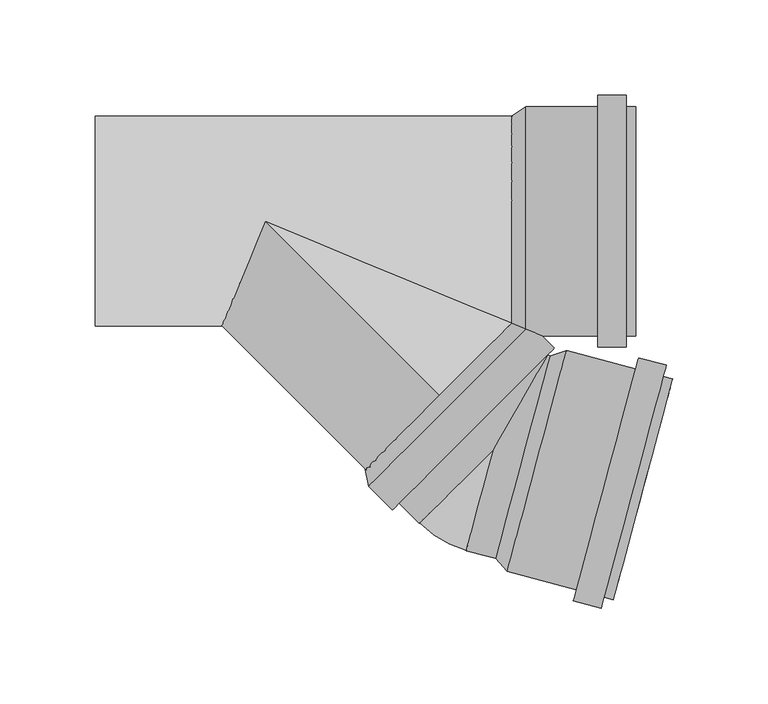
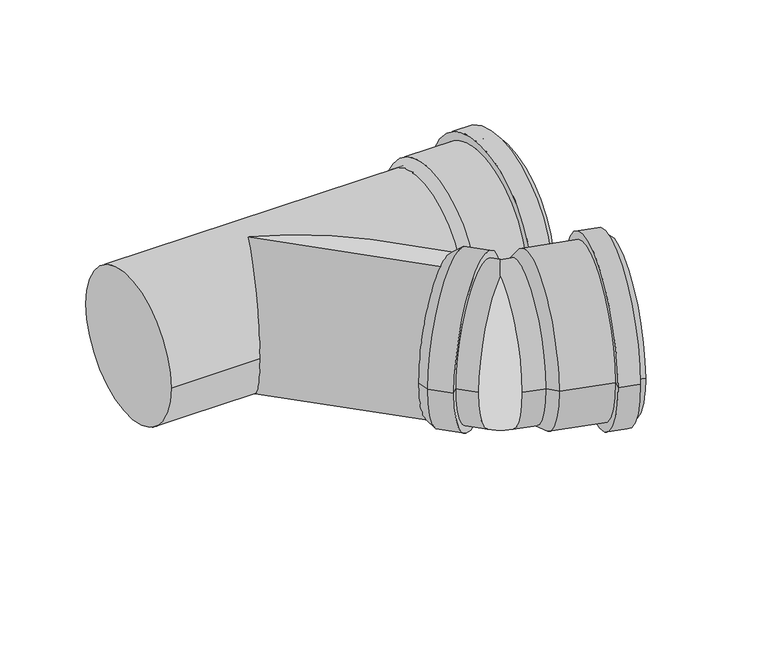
"""IFC4 building model written with IfcOpenShell, lengths in millimetres: pipe fitting geometry, AliaxisFR_Friaphon_SpecialDoubleBranch_FR : SCT 15°."""

from ifc_helpers import new_model, si_unit, point, frame, origin, place, context, project, spatial, polyline, circle_curve, ellipse_curve, trimmed, source, transform, mapped, element, save
from ifc_brep_helpers import plane_surface, cylinder_surface, revolved_surface, advanced_brep


def pipe_fitting_0ced1fed(model_context):
    return source(origin(), model_context, "Body", "AdvancedBrep", [
        advanced_brep(
        [(182.2118952, -198.4209383, 0.0), (213.2701807, -82.5098391, 0.0), (211.9760854, -87.3394682, 0.0), (183.5059905, -193.5913091, 0.0), (161.3404644, -199.0401123, 0.0), (195.5045784, -71.5379032, 0.0), (209.9934658, -75.4201889, 0.0), (175.8293518, -202.922398, 0.0), (162.8933787, -193.2445573, 0.0), (193.9516641, -77.3334582, 0.0), (126.6711602, -183.5388432, 0.0), (157.7294456, -67.627744, 0.0), (149.1909067, -70.5162303, 0.0), (120.7208118, -176.7680712, 0.0), (177.3822661, -197.126843, 0.0), (208.4405515, -81.2157439, 0.0)],
        [
            (0, 1, circle_curve(frame((197.7410379, -140.4653887, 0.0), z_axis=(0.9659258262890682, -0.25881904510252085, 0.0), x_axis=(0.2588190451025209, 0.9659258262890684, 0.0)), 60.0)),
            (1, 2),
            (2, 3, circle_curve(frame((197.7410379, -140.4653887, 0.0), z_axis=(-0.9659258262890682, 0.25881904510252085, 0.0), x_axis=(0.2588190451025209, 0.9659258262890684, 0.0)), 55.0)),
            (3, 0),
            (1, 0, circle_curve(frame((197.7410379, -140.4653887, 0.0), z_axis=(0.9659258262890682, -0.25881904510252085, 0.0), x_axis=(0.2588190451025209, 0.9659258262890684, 0.0)), 60.0)),
            (3, 2, circle_curve(frame((197.7410379, -140.4653887, 0.0), z_axis=(-0.9659258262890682, 0.25881904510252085, 0.0), x_axis=(0.2588190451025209, 0.9659258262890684, 0.0)), 55.0)),
            (4, 5, circle_curve(frame((178.4225214, -135.2890078, 0.0), z_axis=(0.9659258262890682, -0.25881904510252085, 0.0), x_axis=(0.2588190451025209, 0.9659258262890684, 0.0)), 66.0)),
            (5, 6),
            (6, 7, circle_curve(frame((192.9114088, -139.1712934, 0.0), z_axis=(-0.9659258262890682, 0.25881904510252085, 0.0), x_axis=(0.2588190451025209, 0.9659258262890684, 0.0)), 66.0)),
            (7, 4),
            (5, 4, circle_curve(frame((178.4225214, -135.2890078, 0.0), z_axis=(0.9659258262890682, -0.25881904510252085, 0.0), x_axis=(0.2588190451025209, 0.9659258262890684, 0.0)), 66.0)),
            (7, 6, circle_curve(frame((192.9114088, -139.1712934, 0.0), z_axis=(-0.9659258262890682, 0.25881904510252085, 0.0), x_axis=(0.2588190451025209, 0.9659258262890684, 0.0)), 66.0)),
            (8, 9, circle_curve(frame((178.4225214, -135.2890078, 0.0), z_axis=(0.9659258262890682, -0.25881904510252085, 0.0), x_axis=(0.2588190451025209, 0.9659258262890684, 0.0)), 60.0)),
            (9, 5),
            (4, 8),
            (9, 8, circle_curve(frame((178.4225214, -135.2890078, 0.0), z_axis=(0.9659258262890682, -0.25881904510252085, 0.0), x_axis=(0.2588190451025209, 0.9659258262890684, 0.0)), 60.0)),
            (10, 11, circle_curve(frame((142.2003029, -125.5832936, 0.0), z_axis=(0.9659258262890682, -0.25881904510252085, 0.0), x_axis=(0.2588190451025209, 0.9659258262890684, 0.0)), 60.0)),
            (11, 9),
            (8, 10),
            (11, 10, circle_curve(frame((142.2003029, -125.5832936, 0.0), z_axis=(0.9659258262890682, -0.25881904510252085, 0.0), x_axis=(0.2588190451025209, 0.9659258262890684, 0.0)), 60.0)),
            (2, 12),
            (12, 13, circle_curve(frame((134.9558592, -123.6421507, 0.0), z_axis=(-0.9659258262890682, 0.25881904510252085, 0.0), x_axis=(0.2588190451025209, 0.9659258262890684, 0.0)), 55.0)),
            (13, 3),
            (13, 12, circle_curve(frame((134.9558592, -123.6421507, 0.0), z_axis=(-0.9659258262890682, 0.25881904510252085, 0.0), x_axis=(0.2588190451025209, 0.9659258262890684, 0.0)), 55.0)),
            (12, 11),
            (10, 13),
            (14, 15, circle_curve(frame((192.9114088, -139.1712934, 0.0), z_axis=(0.9659258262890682, -0.25881904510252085, 0.0), x_axis=(0.2588190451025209, 0.9659258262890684, 0.0)), 60.0)),
            (15, 1),
            (0, 14),
            (15, 14, circle_curve(frame((192.9114088, -139.1712934, 0.0), z_axis=(0.9659258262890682, -0.25881904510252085, 0.0), x_axis=(0.2588190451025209, 0.9659258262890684, 0.0)), 60.0)),
            (6, 15),
            (14, 7),
        ],
        [
            plane_surface(frame((197.7410379, -140.4653887, 0.0), z_axis=(0.9659258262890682, -0.25881904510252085, 0.0), x_axis=(0.25881904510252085, 0.9659258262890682, 0.0))),
            cylinder_surface(frame((134.9558592, -123.6421507, 0.0), z_axis=(-0.9659258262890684, 0.2588190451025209, 0.0), x_axis=(0.2588190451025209, 0.9659258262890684, 0.0)), 66.0),
            plane_surface(frame((178.4225214, -135.2890078, 0.0), z_axis=(-0.9659258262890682, 0.25881904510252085, 0.0), x_axis=(0.25881904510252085, 0.9659258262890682, 0.0))),
            cylinder_surface(frame((134.9558592, -123.6421507, 0.0), z_axis=(-0.9659258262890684, 0.2588190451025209, 0.0), x_axis=(0.2588190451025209, 0.9659258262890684, 0.0)), 60.0),
            revolved_surface(polyline([(149.19090668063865, -70.51623025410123, 0.0), (211.97608546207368, -87.33946820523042, 0.0)]), (134.9558592, -123.6421507, 0.0), (-0.9659258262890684, 0.2588190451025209, 0.0)),
            revolved_surface(polyline([(157.7294456, -67.627744, 0.0), (149.1909067, -70.5162303, 0.0)]), (134.9558592, -123.6421507, 0.0), (-0.9659258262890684, 0.2588190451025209, 0.0)),
            plane_surface(frame((192.9114088, -139.1712934, 0.0), z_axis=(0.9659258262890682, -0.25881904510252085, 0.0), x_axis=(0.25881904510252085, 0.9659258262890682, 0.0))),
        ],
        [
            (0, [[1, 2, 3, 4]]),
            (0, [[5, -4, 6, -2]]),
            (1, [[7, 8, 9, 10]]),
            (1, [[11, -10, 12, -8]]),
            (2, [[13, 14, -7, 15]]),
            (2, [[16, -15, -11, -14]]),
            (3, [[17, 18, -13, 19]]),
            (3, [[20, -19, -16, -18]]),
            (4, [[-3, 21, 22, 23]]),
            (4, [[-6, -23, 24, -21]]),
            (5, [[-22, 25, -17, 26]]),
            (5, [[-24, -26, -20, -25]]),
            (3, [[27, 28, -1, 29]]),
            (3, [[30, -29, -5, -28]]),
            (6, [[-9, 31, -27, 32]]),
            (6, [[-12, -32, -30, -31]]),
        ],
    ),
        advanced_brep(
        [(154.0205359, -71.8103255, 0.0), (125.5504409, -178.0621664, 0.0), (105.2659985, -172.6269665, 0.0), (147.971141, -70.1893951, 0.0), (119.501046, -119.501046, 55.0), (119.501046, -119.501046, -55.0), (55.8614357, -133.6431816, 0.0), (133.6431816, -55.8614357, 0.0), (80.6101731, -158.391919, 0.0)],
        [
            (0, 1, circle_curve(frame((139.7854884, -124.936246, 0.0), z_axis=(0.9659258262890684, -0.25881904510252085, 0.0), x_axis=(0.2588190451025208, 0.9659258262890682, 0.0)), 55.0)),
            (1, 0, circle_curve(frame((139.7854884, -124.936246, 0.0), z_axis=(0.9659258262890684, -0.25881904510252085, 0.0), x_axis=(0.2588190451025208, 0.9659258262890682, 0.0)), 55.0)),
            (2, 1),
            (0, 3),
            (3, 4, ellipse_curve(frame((119.501046, -119.501046, 0.0), z_axis=(0.8660254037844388, -0.49999999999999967, 0.0), x_axis=(-0.4999999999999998, -0.8660254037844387, 0.0)), 56.9401899, 55.0)),
            (4, 2, circle_curve(frame((119.501046, -119.501046, 0.0), z_axis=(0.9659258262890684, -0.25881904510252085, 0.0), x_axis=(0.2588190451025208, 0.9659258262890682, 0.0)), 55.0)),
            (2, 5, circle_curve(frame((119.501046, -119.501046, 0.0), z_axis=(0.9659258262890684, -0.25881904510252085, 0.0), x_axis=(0.2588190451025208, 0.9659258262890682, 0.0)), 55.0)),
            (5, 3, ellipse_curve(frame((119.501046, -119.501046, 0.0), z_axis=(0.8660254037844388, -0.49999999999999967, 0.0), x_axis=(-0.4999999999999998, -0.8660254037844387, 0.0)), 56.9401899, 55.0)),
            (6, 7, circle_curve(frame((94.7523087, -94.7523087, 0.0), z_axis=(-0.707106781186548, 0.7071067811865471, 0.0), x_axis=(0.7071067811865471, 0.707106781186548, 0.0)), 55.0)),
            (7, 6, circle_curve(frame((94.7523087, -94.7523087, 0.0), z_axis=(-0.707106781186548, 0.7071067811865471, 0.0), x_axis=(0.7071067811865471, 0.707106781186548, 0.0)), 55.0)),
            (6, 8),
            (8, 4, circle_curve(frame((119.501046, -119.501046, 0.0), z_axis=(-0.707106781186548, 0.7071067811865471, 0.0), x_axis=(0.7071067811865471, 0.707106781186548, 0.0)), 55.0)),
            (3, 7),
            (5, 8, circle_curve(frame((119.501046, -119.501046, 0.0), z_axis=(-0.707106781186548, 0.7071067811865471, 0.0), x_axis=(0.7071067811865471, 0.707106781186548, 0.0)), 55.0)),
        ],
        [
            plane_surface(frame((139.7854884, -124.936246, 0.0), z_axis=(0.9659258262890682, -0.25881904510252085, 0.0), x_axis=(0.0, 0.0, 1.0))),
            cylinder_surface(frame((119.501046, -119.501046, 0.0), z_axis=(-0.9659258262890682, 0.2588190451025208, 0.0), x_axis=(0.2588190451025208, 0.9659258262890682, 0.0)), 55.0),
            plane_surface(frame((94.7523087, -94.7523087, 0.0), z_axis=(-0.707106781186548, 0.7071067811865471, 0.0), x_axis=(0.0, 0.0, 1.0))),
            cylinder_surface(frame((94.7523087, -94.7523087, 0.0), z_axis=(-0.707106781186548, 0.7071067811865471, 0.0), x_axis=(0.7071067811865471, 0.707106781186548, 0.0)), 55.0),
            revolved_surface(trimmed(ellipse_curve(frame((119.501046, -119.501046, 0.0), z_axis=(0.9659258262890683, -0.25881904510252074, 0.0), x_axis=(0.25881904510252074, 0.9659258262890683, 0.0)), 55.0, 55.0), [point((119.501046, -119.501046, 55.0))], [point((119.501046, -119.501046, -55.0))], True, "CARTESIAN"), (119.501046, -119.501046, 55.0), (0.0, 0.0, -1.0)),
        ],
        [
            (0, [[1, 2]]),
            (1, [[3, -1, 4, 5, 6]]),
            (1, [[-2, -3, 7, 8, -4]]),
            (2, [[9, 10]]),
            (3, [[-9, 11, 12, -5, 13]]),
            (3, [[-10, -13, -8, 14, -11]]),
            (4, [[-12, -14, -7, -6]]),
        ],
    ),
        advanced_brep(
        [(66.4680374, -151.3208512, 0.0), (151.3208512, -66.4680374, 0.0), (147.7853173, -70.0035713, 0.0), (70.0035713, -147.7853173, 0.0), (54.0936688, -138.9464825, 0.0), (138.9464825, -54.0936688, 0.0), (130.1076477, -52.3259018, 0.0), (52.3259018, -130.1076477, 0.0)],
        [
            (0, 1, circle_curve(frame((108.8944443, -108.8944443, 0.0), z_axis=(0.707106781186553, -0.7071067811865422, 0.0), x_axis=(0.7071067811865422, 0.707106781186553, 0.0)), 60.0)),
            (1, 2),
            (2, 3, circle_curve(frame((108.8944443, -108.8944443, 0.0), z_axis=(-0.707106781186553, 0.7071067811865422, 0.0), x_axis=(0.7071067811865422, 0.707106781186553, 0.0)), 55.0)),
            (3, 0),
            (1, 0, circle_curve(frame((108.8944443, -108.8944443, 0.0), z_axis=(0.707106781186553, -0.7071067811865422, 0.0), x_axis=(0.7071067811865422, 0.707106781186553, 0.0)), 60.0)),
            (3, 2, circle_curve(frame((108.8944443, -108.8944443, 0.0), z_axis=(-0.707106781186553, 0.7071067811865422, 0.0), x_axis=(0.7071067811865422, 0.707106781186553, 0.0)), 55.0)),
            (4, 5, circle_curve(frame((96.5200756, -96.5200756, 0.0), z_axis=(0.707106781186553, -0.7071067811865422, 0.0), x_axis=(0.7071067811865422, 0.707106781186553, 0.0)), 60.0)),
            (5, 1),
            (0, 4),
            (5, 4, circle_curve(frame((96.5200756, -96.5200756, 0.0), z_axis=(0.707106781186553, -0.7071067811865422, 0.0), x_axis=(0.7071067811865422, 0.707106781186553, 0.0)), 60.0)),
            (2, 6),
            (6, 7, circle_curve(frame((91.2167748, -91.2167748, 0.0), z_axis=(-0.707106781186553, 0.7071067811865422, 0.0), x_axis=(0.7071067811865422, 0.707106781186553, 0.0)), 55.0)),
            (7, 3),
            (7, 6, circle_curve(frame((91.2167748, -91.2167748, 0.0), z_axis=(-0.707106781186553, 0.7071067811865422, 0.0), x_axis=(0.7071067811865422, 0.707106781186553, 0.0)), 55.0)),
            (6, 5),
            (4, 7),
        ],
        [
            plane_surface(frame((108.8944443, -108.8944443, 0.0), z_axis=(0.707106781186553, -0.7071067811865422, 0.0), x_axis=(0.7071067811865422, 0.707106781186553, 0.0))),
            cylinder_surface(frame((91.2167748, -91.2167748, 0.0), z_axis=(-0.707106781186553, 0.7071067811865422, 0.0), x_axis=(0.7071067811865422, 0.707106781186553, 0.0)), 60.0),
            revolved_surface(polyline([(130.10764771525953, -52.32590178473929, 0.0), (147.78531726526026, -70.00357133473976, 0.0)]), (91.2167748, -91.2167748, 0.0), (-0.707106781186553, 0.7071067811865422, 0.0)),
            revolved_surface(polyline([(138.9464825, -54.0936688, 0.0), (130.1076477, -52.3259018, 0.0)]), (91.2167748, -91.2167748, 0.0), (-0.707106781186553, 0.7071067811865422, 0.0)),
        ],
        [
            (0, [[1, 2, 3, 4]]),
            (0, [[5, -4, 6, -2]]),
            (1, [[7, 8, -1, 9]]),
            (1, [[10, -9, -5, -8]]),
            (2, [[-3, 11, 12, 13]]),
            (2, [[-6, -13, 14, -11]]),
            (3, [[-12, 15, -7, 16]]),
            (3, [[-14, -16, -10, -15]]),
        ],
    ),
        advanced_brep(
        [(194.0, -60.0, 0.0), (194.0, 60.0, 0.0), (194.0, 55.0, 0.0), (194.0, -55.0, 0.0), (174.0, -66.0, 0.0), (174.0, 66.0, 0.0), (189.0, 66.0, 0.0), (189.0, -66.0, 0.0), (174.0, -60.0, 0.0), (174.0, 60.0, 0.0), (136.5, -60.0, 0.0), (136.5, 60.0, 0.0), (129.0, 55.0, 0.0), (129.0, -55.0, 0.0), (189.0, -60.0, 0.0), (189.0, 60.0, 0.0)],
        [
            (0, 1, circle_curve(frame((194.0, 0.0, 0.0), z_axis=(1.0, 0.0, 0.0), x_axis=(0.0, 1.0, 0.0)), 60.0)),
            (1, 2),
            (2, 3, circle_curve(frame((194.0, 0.0, 0.0), z_axis=(-1.0, 0.0, 0.0), x_axis=(0.0, 1.0, 0.0)), 55.0)),
            (3, 0),
            (1, 0, circle_curve(frame((194.0, 0.0, 0.0), z_axis=(1.0, 0.0, 0.0), x_axis=(0.0, 1.0, 0.0)), 60.0)),
            (3, 2, circle_curve(frame((194.0, 0.0, 0.0), z_axis=(-1.0, 0.0, 0.0), x_axis=(0.0, 1.0, 0.0)), 55.0)),
            (4, 5, circle_curve(frame((174.0, 0.0, 0.0), z_axis=(1.0, 0.0, 0.0), x_axis=(0.0, 1.0, 0.0)), 66.0)),
            (5, 6),
            (6, 7, circle_curve(frame((189.0, 0.0, 0.0), z_axis=(-1.0, 0.0, 0.0), x_axis=(0.0, 1.0, 0.0)), 66.0)),
            (7, 4),
            (5, 4, circle_curve(frame((174.0, 0.0, 0.0), z_axis=(1.0, 0.0, 0.0), x_axis=(0.0, 1.0, 0.0)), 66.0)),
            (7, 6, circle_curve(frame((189.0, 0.0, 0.0), z_axis=(-1.0, 0.0, 0.0), x_axis=(0.0, 1.0, 0.0)), 66.0)),
            (8, 9, circle_curve(frame((174.0, 0.0, 0.0), z_axis=(1.0, 0.0, 0.0), x_axis=(0.0, 1.0, 0.0)), 60.0)),
            (9, 5),
            (4, 8),
            (9, 8, circle_curve(frame((174.0, 0.0, 0.0), z_axis=(1.0, 0.0, 0.0), x_axis=(0.0, 1.0, 0.0)), 60.0)),
            (10, 11, circle_curve(frame((136.5, 0.0, 0.0), z_axis=(1.0, 0.0, 0.0), x_axis=(0.0, 1.0, 0.0)), 60.0)),
            (11, 9),
            (8, 10),
            (11, 10, circle_curve(frame((136.5, 0.0, 0.0), z_axis=(1.0, 0.0, 0.0), x_axis=(0.0, 1.0, 0.0)), 60.0)),
            (2, 12),
            (12, 13, circle_curve(frame((129.0, 0.0, 0.0), z_axis=(-1.0, 0.0, 0.0), x_axis=(0.0, 1.0, 0.0)), 55.0)),
            (13, 3),
            (13, 12, circle_curve(frame((129.0, 0.0, 0.0), z_axis=(-1.0, 0.0, 0.0), x_axis=(0.0, 1.0, 0.0)), 55.0)),
            (12, 11),
            (10, 13),
            (14, 15, circle_curve(frame((189.0, 0.0, 0.0), z_axis=(1.0, 0.0, 0.0), x_axis=(0.0, 1.0, 0.0)), 60.0)),
            (15, 1),
            (0, 14),
            (15, 14, circle_curve(frame((189.0, 0.0, 0.0), z_axis=(1.0, 0.0, 0.0), x_axis=(0.0, 1.0, 0.0)), 60.0)),
            (6, 15),
            (14, 7),
        ],
        [
            plane_surface(frame((194.0, 0.0, 0.0), z_axis=(1.0, 0.0, 0.0), x_axis=(0.0, 1.0, 0.0))),
            cylinder_surface(frame((129.0, 0.0, 0.0), z_axis=(-1.0, 0.0, 0.0), x_axis=(0.0, 1.0, 0.0)), 66.0),
            plane_surface(frame((174.0, 0.0, 0.0), z_axis=(-1.0, 0.0, 0.0), x_axis=(0.0, 1.0, 0.0))),
            cylinder_surface(frame((129.0, 0.0, 0.0), z_axis=(-1.0, 0.0, 0.0), x_axis=(0.0, 1.0, 0.0)), 60.0),
            revolved_surface(polyline([(129.0, 55.0, 0.0), (194.0, 55.0, 0.0)]), (129.0, 0.0, 0.0), (-1.0, 0.0, 0.0)),
            revolved_surface(polyline([(136.5, 60.0, 0.0), (129.0, 55.0, 0.0)]), (129.0, 0.0, 0.0), (-1.0, 0.0, 0.0)),
            plane_surface(frame((189.0, 0.0, 0.0), z_axis=(1.0, 0.0, 0.0), x_axis=(0.0, 1.0, 0.0))),
        ],
        [
            (0, [[1, 2, 3, 4]]),
            (0, [[5, -4, 6, -2]]),
            (1, [[7, 8, 9, 10]]),
            (1, [[11, -10, 12, -8]]),
            (2, [[13, 14, -7, 15]]),
            (2, [[16, -15, -11, -14]]),
            (3, [[17, 18, -13, 19]]),
            (3, [[20, -19, -16, -18]]),
            (4, [[-3, 21, 22, 23]]),
            (4, [[-6, -23, 24, -21]]),
            (5, [[-22, 25, -17, 26]]),
            (5, [[-24, -26, -20, -25]]),
            (3, [[27, 28, -1, 29]]),
            (3, [[30, -29, -5, -28]]),
            (6, [[-9, 31, -27, 32]]),
            (6, [[-12, -32, -30, -31]]),
        ],
    ),
        advanced_brep(
        [(134.0, -55.0, 0.0), (134.0, 55.0, 0.0), (-89.0, -55.0, 0.0), (-89.0, 55.0, 0.0), (132.7817459, -55.0, 0.0), (0.0, 0.0, -55.0), (-22.7817459, -55.0, 0.0), (0.0, 0.0, 55.0), (94.7523087, -94.7523087, -55.0), (94.7523087, -94.7523087, 55.0)],
        [
            (0, 1, circle_curve(frame((134.0, 0.0, 0.0), z_axis=(1.0, 0.0, 0.0), x_axis=(0.0, 1.0, 0.0)), 55.0)),
            (1, 0, circle_curve(frame((134.0, 0.0, 0.0), z_axis=(1.0, 0.0, 0.0), x_axis=(0.0, 1.0, 0.0)), 55.0)),
            (2, 3, circle_curve(frame((-89.0, 0.0, 0.0), z_axis=(-1.0, 0.0, 0.0), x_axis=(0.0, 1.0, 0.0)), 55.0)),
            (3, 2, circle_curve(frame((-89.0, 0.0, 0.0), z_axis=(-1.0, 0.0, 0.0), x_axis=(0.0, 1.0, 0.0)), 55.0)),
            (0, 4),
            (4, 5, ellipse_curve(frame((0.0, 0.0, 0.0), z_axis=(0.3826834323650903, 0.9238795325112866, 0.0), x_axis=(0.9238795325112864, -0.3826834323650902, 0.0)), 143.7219261, 55.0)),
            (5, 6, ellipse_curve(frame((0.0, 0.0, 0.0), z_axis=(-0.9238795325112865, 0.3826834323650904, 0.0), x_axis=(0.3826834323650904, 0.9238795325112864, 0.0)), 59.531571, 55.0)),
            (6, 2),
            (3, 1),
            (6, 7, ellipse_curve(frame((0.0, 0.0, 0.0), z_axis=(-0.9238795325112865, 0.3826834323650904, 0.0), x_axis=(0.3826834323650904, 0.9238795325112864, 0.0)), 59.531571, 55.0)),
            (7, 4, ellipse_curve(frame((0.0, 0.0, 0.0), z_axis=(0.3826834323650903, 0.9238795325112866, 0.0), x_axis=(0.9238795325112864, -0.3826834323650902, 0.0)), 143.7219261, 55.0)),
            (8, 9, circle_curve(frame((94.7523087, -94.7523087, 0.0), z_axis=(0.7071067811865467, -0.7071067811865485, 0.0), x_axis=(0.0, 0.0, 1.0)), 55.0)),
            (9, 8, circle_curve(frame((94.7523087, -94.7523087, 0.0), z_axis=(0.7071067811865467, -0.7071067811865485, 0.0), x_axis=(0.0, 0.0, 1.0)), 55.0)),
            (8, 5),
            (7, 9),
        ],
        [
            plane_surface(frame((134.0, 55.0, 0.0), z_axis=(1.0, 0.0, 0.0), x_axis=(0.0, 0.0, 1.0))),
            plane_surface(frame((-89.0, 55.0, 0.0), z_axis=(-1.0, 0.0, 0.0), x_axis=(0.0, 0.0, -1.0))),
            cylinder_surface(frame((-89.0, 0.0, 0.0), z_axis=(1.0, 0.0, 0.0), x_axis=(0.0, 1.0, 0.0)), 55.0),
            plane_surface(frame((94.7523087, -94.7523087, 55.0), z_axis=(0.707106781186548, -0.7071067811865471, 0.0), x_axis=(-0.7071067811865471, -0.707106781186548, 0.0))),
            cylinder_surface(frame((94.7523087, -94.7523087, 0.0), z_axis=(-0.7071067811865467, 0.7071067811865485, 0.0), x_axis=(0.0, 0.0, 1.0)), 55.0),
        ],
        [
            (0, [[1, 2]]),
            (1, [[3, 4]]),
            (2, [[-1, 5, 6, 7, 8, -4, 9]]),
            (2, [[-2, -9, -3, -8, 10, 11, -5]]),
            (3, [[12, 13]]),
            (4, [[-12, 14, -6, -11, 15]]),
            (4, [[-13, -15, -10, -7, -14]]),
        ],
    ),
    ])


if __name__ == "__main__":
    model = new_model("IFC4")
    model_context = context("Model", 3, world=origin())
    ifc_project = project(units=[si_unit("LENGTHUNIT", "METRE", prefix="MILLI")], contexts=[model_context])
    site = spatial("IfcSite", under=ifc_project)
    building = spatial("IfcBuilding", under=site)
    placement = place(None, origin())
    pipe_fitting_shape = pipe_fitting_0ced1fed(model_context)
    element("IfcPipeFitting", 1, ObjectType="AliaxisFR_Friaphon_SpecialDoubleBranch_FR : SCT 15°", at=placement, inside=building, context=model_context, shape_type="MappedRepresentation", body=[
        mapped(pipe_fitting_shape, transform((0.0, 0.0, 0.0), x_axis=(1.0, 0.0, 0.0), y_axis=(0.0, 1.0, 0.0), z_axis=(0.0, 0.0, 1.0))),
    ])
    save(model, "model.ifc")
